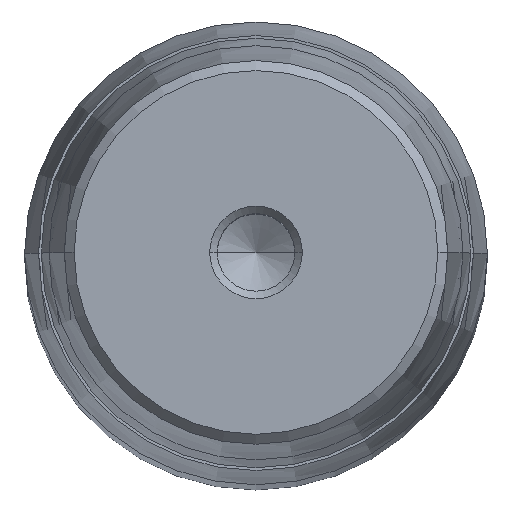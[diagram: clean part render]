
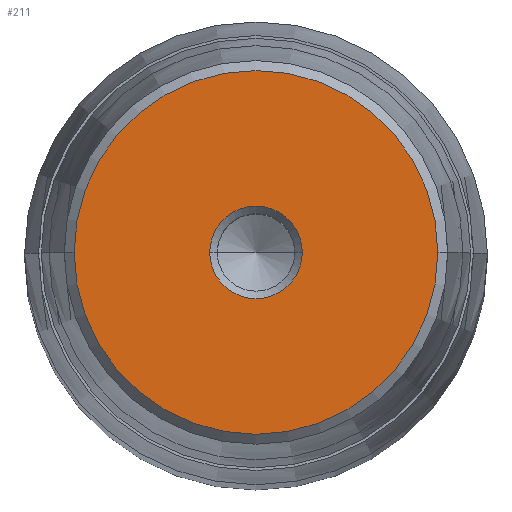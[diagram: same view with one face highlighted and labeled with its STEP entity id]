
A CAD part, top view. The second image highlights one B-rep face of the part: STEP entity #211.
In plain terms, the highlighted planar face has unit normal (0, 0, 1).
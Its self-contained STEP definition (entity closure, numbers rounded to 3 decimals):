
#136=CARTESIAN_POINT('Axis2P3D Location',(0.,0.,58.)) ;
#140=CARTESIAN_POINT('Vertex',(-5.,0.,58.)) ;
#142=CARTESIAN_POINT('Vertex',(5.,0.,58.)) ;
#179=CARTESIAN_POINT('Axis2P3D Location',(0.,5.,58.)) ;
#184=CARTESIAN_POINT('Axis2P3D Location',(0.,0.,58.)) ;
#188=CARTESIAN_POINT('Vertex',(-19.65,0.,58.)) ;
#190=CARTESIAN_POINT('Vertex',(19.65,0.,58.)) ;
#193=CARTESIAN_POINT('Axis2P3D Location',(0.,0.,58.)) ;
#202=CARTESIAN_POINT('Axis2P3D Location',(0.,0.,58.)) ;
#137=DIRECTION('Axis2P3D Direction',(0.,-0.,1.)) ;
#180=DIRECTION('Axis2P3D Direction',(0.,0.,-1.)) ;
#181=DIRECTION('Axis2P3D XDirection',(-1.,0.,0.)) ;
#185=DIRECTION('Axis2P3D Direction',(0.,0.,-1.)) ;
#194=DIRECTION('Axis2P3D Direction',(0.,0.,-1.)) ;
#203=DIRECTION('Axis2P3D Direction',(0.,0.,-1.)) ;
#138=AXIS2_PLACEMENT_3D('Circle Axis2P3D',#136,#137,$) ;
#182=AXIS2_PLACEMENT_3D('Plane Axis2P3D',#179,#180,#181) ;
#186=AXIS2_PLACEMENT_3D('Circle Axis2P3D',#184,#185,$) ;
#195=AXIS2_PLACEMENT_3D('Circle Axis2P3D',#193,#194,$) ;
#204=AXIS2_PLACEMENT_3D('Circle Axis2P3D',#202,#203,$) ;
#199=ORIENTED_EDGE('',*,*,#192,.F.) ;
#200=ORIENTED_EDGE('',*,*,#197,.F.) ;
#208=ORIENTED_EDGE('',*,*,#206,.T.) ;
#209=ORIENTED_EDGE('',*,*,#144,.T.) ;
#210=FACE_BOUND('',#207,.T.) ;
#211=ADVANCED_FACE('722-50x355x395',(#201,#210),#183,.F.) ;
#139=CIRCLE('generated circle',#138,5.) ;
#187=CIRCLE('generated circle',#186,19.65) ;
#196=CIRCLE('generated circle',#195,19.65) ;
#205=CIRCLE('generated circle',#204,5.) ;
#144=EDGE_CURVE('',#141,#143,#139,.F.) ;
#192=EDGE_CURVE('',#189,#191,#187,.T.) ;
#197=EDGE_CURVE('',#191,#189,#196,.T.) ;
#206=EDGE_CURVE('',#143,#141,#205,.T.) ;
#198=EDGE_LOOP('',(#199,#200)) ;
#207=EDGE_LOOP('',(#208,#209)) ;
#201=FACE_OUTER_BOUND('',#198,.T.) ;
#183=PLANE('Plane',#182) ;
#141=VERTEX_POINT('',#140) ;
#143=VERTEX_POINT('',#142) ;
#189=VERTEX_POINT('',#188) ;
#191=VERTEX_POINT('',#190) ;
